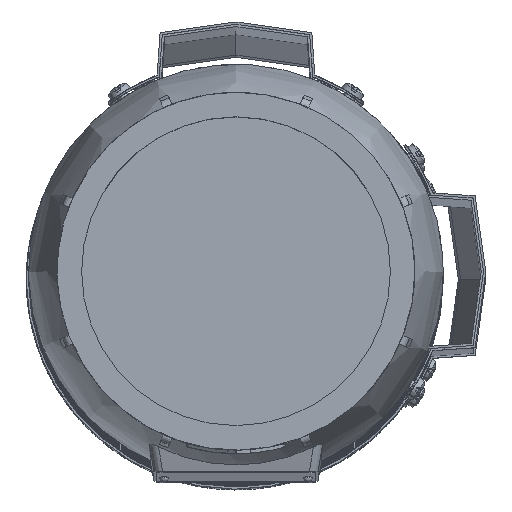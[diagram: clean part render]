
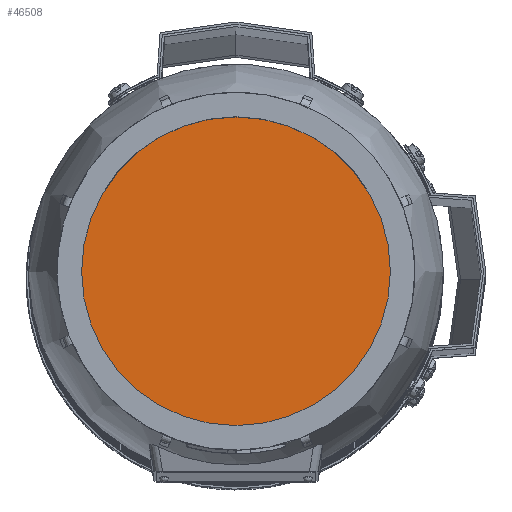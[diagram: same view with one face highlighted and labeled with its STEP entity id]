
A CAD part, top view. The second image highlights one B-rep face of the part: STEP entity #46508.
In plain terms, the highlighted planar face has unit normal (0, 0, 1) as drawn and (0, 1, 0) by its records, which use the part's own axes.
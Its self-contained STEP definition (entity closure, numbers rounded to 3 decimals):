
#9841=ORIENTED_EDGE('',*,*,#23897,.F.);
#23897=EDGE_CURVE('',#30925,#30925,#35655,.T.);
#30925=VERTEX_POINT('',#67152);
#35655=CIRCLE('',#49047,67.736);
#37778=EDGE_LOOP('',(#9841));
#41132=FACE_BOUND('',#37778,.T.);
#44504=PLANE('',#49046);
#46508=ADVANCED_FACE('',(#41132),#44504,.F.);
#49046=AXIS2_PLACEMENT_3D('',#67150,#53649,#53650);
#49047=AXIS2_PLACEMENT_3D('',#67151,#53651,#53652);
#53649=DIRECTION('',(0.,-1.,0.));
#53650=DIRECTION('',(0.,0.,-1.));
#53651=DIRECTION('',(0.,-1.,0.));
#53652=DIRECTION('',(0.,0.,-1.));
#67150=CARTESIAN_POINT('',(0.,154.,0.));
#67151=CARTESIAN_POINT('',(0.,154.,0.));
#67152=CARTESIAN_POINT('',(0.,154.,-67.736));
